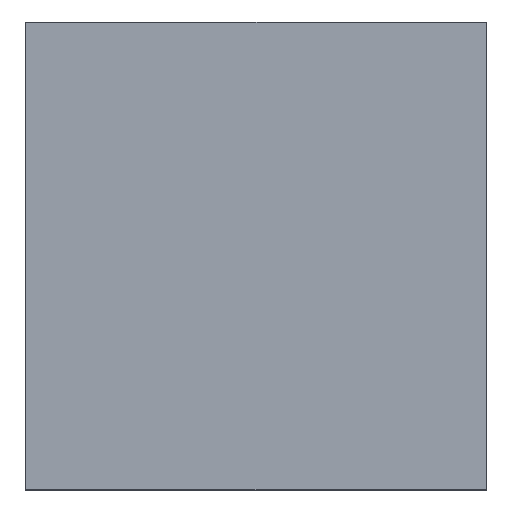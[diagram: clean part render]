
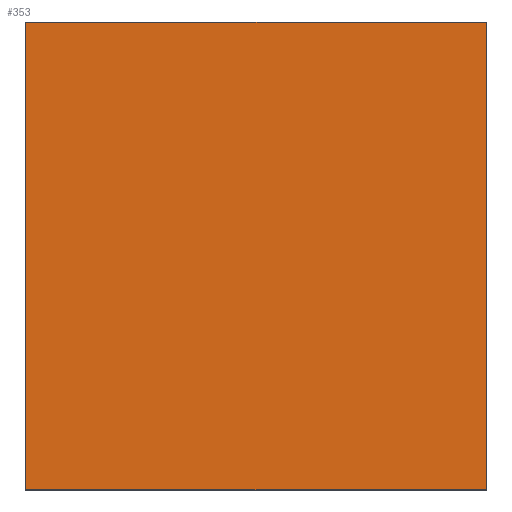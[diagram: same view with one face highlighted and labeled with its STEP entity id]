
A CAD part, top view. The second image highlights one B-rep face of the part: STEP entity #353.
In plain terms, the highlighted planar face has unit normal (0, 0, 1).
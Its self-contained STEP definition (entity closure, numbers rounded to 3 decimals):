
#39 = VERTEX_POINT('',#40);
#40 = CARTESIAN_POINT('',(-6.9,7.,7.68));
#47 = PLANE('',#48);
#48 = AXIS2_PLACEMENT_3D('',#49,#50,#51);
#49 = CARTESIAN_POINT('',(-6.9,7.,0.));
#50 = DIRECTION('',(0.,1.,0.));
#51 = DIRECTION('',(1.,0.,0.));
#59 = PLANE('',#60);
#60 = AXIS2_PLACEMENT_3D('',#61,#62,#63);
#61 = CARTESIAN_POINT('',(-6.9,-7.,0.));
#62 = DIRECTION('',(-1.,0.,0.));
#63 = DIRECTION('',(0.,1.,0.));
#71 = EDGE_CURVE('',#39,#72,#74,.T.);
#72 = VERTEX_POINT('',#73);
#73 = CARTESIAN_POINT('',(6.9,7.,7.68));
#74 = SURFACE_CURVE('',#75,(#79,#86),.PCURVE_S1.);
#75 = LINE('',#76,#77);
#76 = CARTESIAN_POINT('',(-6.9,7.,7.68));
#77 = VECTOR('',#78,1.);
#78 = DIRECTION('',(1.,0.,0.));
#79 = PCURVE('',#47,#80);
#80 = DEFINITIONAL_REPRESENTATION('',(#81),#85);
#81 = LINE('',#82,#83);
#82 = CARTESIAN_POINT('',(0.,-7.68));
#83 = VECTOR('',#84,1.);
#84 = DIRECTION('',(1.,0.));
#85 = ( GEOMETRIC_REPRESENTATION_CONTEXT(2) 
PARAMETRIC_REPRESENTATION_CONTEXT() REPRESENTATION_CONTEXT('2D SPACE',''
  ) );
#86 = PCURVE('',#87,#92);
#87 = PLANE('',#88);
#88 = AXIS2_PLACEMENT_3D('',#89,#90,#91);
#89 = CARTESIAN_POINT('',(0.,0.,7.68));
#90 = DIRECTION('',(-0.,-0.,-1.));
#91 = DIRECTION('',(-1.,0.,0.));
#92 = DEFINITIONAL_REPRESENTATION('',(#93),#97);
#93 = LINE('',#94,#95);
#94 = CARTESIAN_POINT('',(6.9,7.));
#95 = VECTOR('',#96,1.);
#96 = DIRECTION('',(-1.,0.));
#97 = ( GEOMETRIC_REPRESENTATION_CONTEXT(2) 
PARAMETRIC_REPRESENTATION_CONTEXT() REPRESENTATION_CONTEXT('2D SPACE',''
  ) );
#115 = PLANE('',#116);
#116 = AXIS2_PLACEMENT_3D('',#117,#118,#119);
#117 = CARTESIAN_POINT('',(6.9,7.,0.));
#118 = DIRECTION('',(1.,0.,-0.));
#119 = DIRECTION('',(0.,-1.,0.));
#157 = EDGE_CURVE('',#72,#158,#160,.T.);
#158 = VERTEX_POINT('',#159);
#159 = CARTESIAN_POINT('',(6.9,-7.,7.68));
#160 = SURFACE_CURVE('',#161,(#165,#172),.PCURVE_S1.);
#161 = LINE('',#162,#163);
#162 = CARTESIAN_POINT('',(6.9,7.,7.68));
#163 = VECTOR('',#164,1.);
#164 = DIRECTION('',(0.,-1.,0.));
#165 = PCURVE('',#115,#166);
#166 = DEFINITIONAL_REPRESENTATION('',(#167),#171);
#167 = LINE('',#168,#169);
#168 = CARTESIAN_POINT('',(0.,-7.68));
#169 = VECTOR('',#170,1.);
#170 = DIRECTION('',(1.,0.));
#171 = ( GEOMETRIC_REPRESENTATION_CONTEXT(2) 
PARAMETRIC_REPRESENTATION_CONTEXT() REPRESENTATION_CONTEXT('2D SPACE',''
  ) );
#172 = PCURVE('',#87,#173);
#173 = DEFINITIONAL_REPRESENTATION('',(#174),#178);
#174 = LINE('',#175,#176);
#175 = CARTESIAN_POINT('',(-6.9,7.));
#176 = VECTOR('',#177,1.);
#177 = DIRECTION('',(0.,-1.));
#178 = ( GEOMETRIC_REPRESENTATION_CONTEXT(2) 
PARAMETRIC_REPRESENTATION_CONTEXT() REPRESENTATION_CONTEXT('2D SPACE',''
  ) );
#196 = PLANE('',#197);
#197 = AXIS2_PLACEMENT_3D('',#198,#199,#200);
#198 = CARTESIAN_POINT('',(6.9,-7.,0.));
#199 = DIRECTION('',(0.,-1.,0.));
#200 = DIRECTION('',(-1.,0.,0.));
#233 = EDGE_CURVE('',#158,#234,#236,.T.);
#234 = VERTEX_POINT('',#235);
#235 = CARTESIAN_POINT('',(-6.9,-7.,7.68));
#236 = SURFACE_CURVE('',#237,(#241,#248),.PCURVE_S1.);
#237 = LINE('',#238,#239);
#238 = CARTESIAN_POINT('',(6.9,-7.,7.68));
#239 = VECTOR('',#240,1.);
#240 = DIRECTION('',(-1.,0.,0.));
#241 = PCURVE('',#196,#242);
#242 = DEFINITIONAL_REPRESENTATION('',(#243),#247);
#243 = LINE('',#244,#245);
#244 = CARTESIAN_POINT('',(0.,-7.68));
#245 = VECTOR('',#246,1.);
#246 = DIRECTION('',(1.,0.));
#247 = ( GEOMETRIC_REPRESENTATION_CONTEXT(2) 
PARAMETRIC_REPRESENTATION_CONTEXT() REPRESENTATION_CONTEXT('2D SPACE',''
  ) );
#248 = PCURVE('',#87,#249);
#249 = DEFINITIONAL_REPRESENTATION('',(#250),#254);
#250 = LINE('',#251,#252);
#251 = CARTESIAN_POINT('',(-6.9,-7.));
#252 = VECTOR('',#253,1.);
#253 = DIRECTION('',(1.,0.));
#254 = ( GEOMETRIC_REPRESENTATION_CONTEXT(2) 
PARAMETRIC_REPRESENTATION_CONTEXT() REPRESENTATION_CONTEXT('2D SPACE',''
  ) );
#304 = EDGE_CURVE('',#234,#39,#305,.T.);
#305 = SURFACE_CURVE('',#306,(#310,#317),.PCURVE_S1.);
#306 = LINE('',#307,#308);
#307 = CARTESIAN_POINT('',(-6.9,-7.,7.68));
#308 = VECTOR('',#309,1.);
#309 = DIRECTION('',(0.,1.,0.));
#310 = PCURVE('',#59,#311);
#311 = DEFINITIONAL_REPRESENTATION('',(#312),#316);
#312 = LINE('',#313,#314);
#313 = CARTESIAN_POINT('',(0.,-7.68));
#314 = VECTOR('',#315,1.);
#315 = DIRECTION('',(1.,0.));
#316 = ( GEOMETRIC_REPRESENTATION_CONTEXT(2) 
PARAMETRIC_REPRESENTATION_CONTEXT() REPRESENTATION_CONTEXT('2D SPACE',''
  ) );
#317 = PCURVE('',#87,#318);
#318 = DEFINITIONAL_REPRESENTATION('',(#319),#323);
#319 = LINE('',#320,#321);
#320 = CARTESIAN_POINT('',(6.9,-7.));
#321 = VECTOR('',#322,1.);
#322 = DIRECTION('',(0.,1.));
#323 = ( GEOMETRIC_REPRESENTATION_CONTEXT(2) 
PARAMETRIC_REPRESENTATION_CONTEXT() REPRESENTATION_CONTEXT('2D SPACE',''
  ) );
#353 = ADVANCED_FACE('',(#354),#87,.F.);
#354 = FACE_BOUND('',#355,.F.);
#355 = EDGE_LOOP('',(#356,#357,#358,#359));
#356 = ORIENTED_EDGE('',*,*,#71,.T.);
#357 = ORIENTED_EDGE('',*,*,#157,.T.);
#358 = ORIENTED_EDGE('',*,*,#233,.T.);
#359 = ORIENTED_EDGE('',*,*,#304,.T.);
